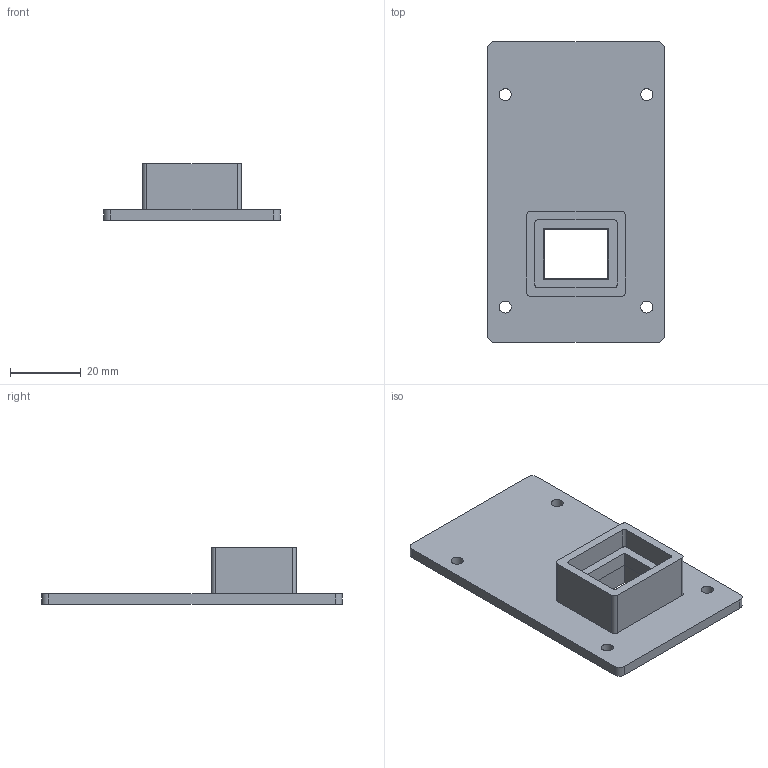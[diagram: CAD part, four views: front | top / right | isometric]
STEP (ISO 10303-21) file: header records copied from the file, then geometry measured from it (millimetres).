
FILE_DESCRIPTION(('Open CASCADE Model'),'2;1');
FILE_NAME('Open CASCADE Shape Model','2026-10-22T00:34:13',('Author'),( 'Open CASCADE'),'Open CASCADE STEP processor 7.8','Open CASCADE 7.8' ,'Unknown');
FILE_SCHEMA(('AUTOMOTIVE_DESIGN { 1 0 10303 214 1 1 1 1 }'));
Length unit declared in the file: millimetre
Products named in the file (1): Open CASCADE STEP translator 7.8 2
Bounding box: 50 x 85 x 16 mm (x, y, z)
Volume: 16135.5 mm3; surface area: 11300.7 mm2
Topology: 1 solids, 1 shells, 40 faces, 104 edges, 68 vertices
Faces by surface type: plane 20, cylinder 16, bspline 4
Full cylindrical faces by diameter (mm): 3.4 x4
Entity records: 2642 total; most frequent: CARTESIAN_POINT 553, DIRECTION 382, LINE 228, VECTOR 228, ORIENTED_EDGE 208, PCURVE 208, DEFINITIONAL_REPRESENTATION 208, EDGE_CURVE 104
